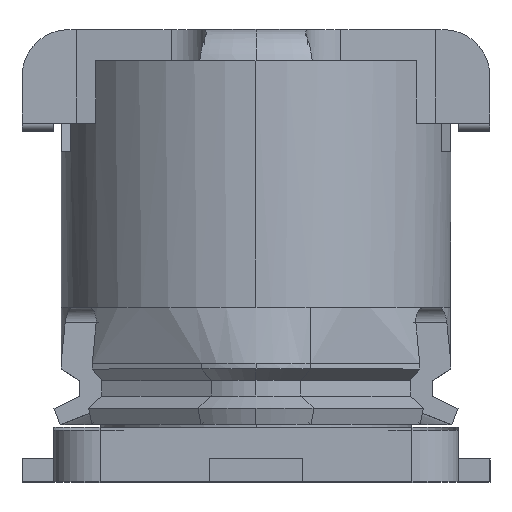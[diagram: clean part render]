
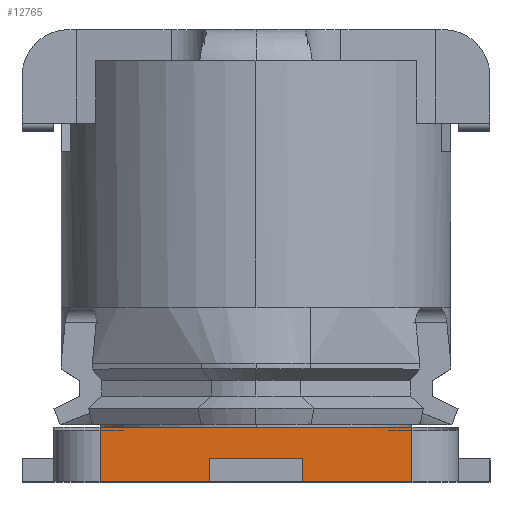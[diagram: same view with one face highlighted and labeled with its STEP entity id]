
A CAD part, top view. The second image highlights one B-rep face of the part: STEP entity #12765.
In plain terms, the highlighted planar face has unit normal (0, 0, 1).
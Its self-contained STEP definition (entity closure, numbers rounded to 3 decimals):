
#16 = ORIENTED_EDGE ( 'NONE', *, *, #10085, .F. ) ;
#99 = CARTESIAN_POINT ( 'NONE',  ( 0.3, 0., 1.3 ) ) ;
#495 = VECTOR ( 'NONE', #7496, 1000. ) ;
#560 = CARTESIAN_POINT ( 'NONE',  ( -0.3, 0., 1.3 ) ) ;
#622 = ORIENTED_EDGE ( 'NONE', *, *, #15265, .T. ) ;
#815 = EDGE_CURVE ( 'NONE', #11197, #2263, #8198, .T. ) ;
#821 = EDGE_CURVE ( 'NONE', #855, #1681, #4488, .T. ) ;
#855 = VERTEX_POINT ( 'NONE', #11535 ) ;
#892 = EDGE_CURVE ( 'NONE', #1994, #1877, #7316, .T. ) ;
#915 = LINE ( 'NONE', #10179, #4174 ) ;
#917 = DIRECTION ( 'NONE',  ( 0., -1., 0. ) ) ;
#1288 = DIRECTION ( 'NONE',  ( 0., 0., -1. ) ) ;
#1667 = EDGE_CURVE ( 'NONE', #17476, #16821, #13419, .T. ) ;
#1681 = VERTEX_POINT ( 'NONE', #560 ) ;
#1711 = VECTOR ( 'NONE', #11694, 1000. ) ;
#1857 = CARTESIAN_POINT ( 'NONE',  ( -1., 0.35, 1.3 ) ) ;
#1877 = VERTEX_POINT ( 'NONE', #12003 ) ;
#1905 = CARTESIAN_POINT ( 'NONE',  ( 1., 0.33, 1.3 ) ) ;
#1994 = VERTEX_POINT ( 'NONE', #2566 ) ;
#2263 = VERTEX_POINT ( 'NONE', #15710 ) ;
#2430 = DIRECTION ( 'NONE',  ( -1., 0., 0. ) ) ;
#2539 = DIRECTION ( 'NONE',  ( 0., -1., 0. ) ) ;
#2566 = CARTESIAN_POINT ( 'NONE',  ( 0.3, 0.15, 1.3 ) ) ;
#2812 = DIRECTION ( 'NONE',  ( 0., -1., 0. ) ) ;
#2887 = FACE_OUTER_BOUND ( 'NONE', #14350, .T. ) ;
#2947 = LINE ( 'NONE', #5107, #6197 ) ;
#3135 = DIRECTION ( 'NONE',  ( 1., 0., 0. ) ) ;
#4174 = VECTOR ( 'NONE', #17276, 1000. ) ;
#4184 = LINE ( 'NONE', #6105, #495 ) ;
#4195 = EDGE_CURVE ( 'NONE', #1681, #1877, #4184, .T. ) ;
#4488 = LINE ( 'NONE', #12515, #15168 ) ;
#4551 = CARTESIAN_POINT ( 'NONE',  ( 1., 0.35, 1.3 ) ) ;
#4876 = DIRECTION ( 'NONE',  ( 1., 0., 0. ) ) ;
#5107 = CARTESIAN_POINT ( 'NONE',  ( 0.3, 0.15, 1.3 ) ) ;
#5143 = VERTEX_POINT ( 'NONE', #99 ) ;
#5763 = EDGE_CURVE ( 'NONE', #1994, #5143, #2947, .T. ) ;
#5843 = LINE ( 'NONE', #14378, #1711 ) ;
#5883 = CARTESIAN_POINT ( 'NONE',  ( 1., 0., 1.3 ) ) ;
#5985 = ORIENTED_EDGE ( 'NONE', *, *, #12642, .T. ) ;
#5997 = VECTOR ( 'NONE', #2812, 1000. ) ;
#6063 = VECTOR ( 'NONE', #14305, 1000. ) ;
#6105 = CARTESIAN_POINT ( 'NONE',  ( -0.3, 0.15, 1.3 ) ) ;
#6197 = VECTOR ( 'NONE', #917, 1000. ) ;
#6525 = ORIENTED_EDGE ( 'NONE', *, *, #892, .F. ) ;
#6554 = AXIS2_PLACEMENT_3D ( 'NONE', #15172, #1288, #11037 ) ;
#6565 = ORIENTED_EDGE ( 'NONE', *, *, #821, .T. ) ;
#7316 = LINE ( 'NONE', #15310, #18032 ) ;
#7320 = CARTESIAN_POINT ( 'NONE',  ( -1., 0.35, 1.3 ) ) ;
#7496 = DIRECTION ( 'NONE',  ( 0., 1., 0. ) ) ;
#8198 = LINE ( 'NONE', #7320, #12336 ) ;
#8230 = PLANE ( 'NONE',  #6554 ) ;
#8931 = ORIENTED_EDGE ( 'NONE', *, *, #15099, .F. ) ;
#8960 = VERTEX_POINT ( 'NONE', #5883 ) ;
#10085 = EDGE_CURVE ( 'NONE', #11197, #17476, #5843, .T. ) ;
#10179 = CARTESIAN_POINT ( 'NONE',  ( -1., 0.35, 1.3 ) ) ;
#11037 = DIRECTION ( 'NONE',  ( -1., 0., 0. ) ) ;
#11197 = VERTEX_POINT ( 'NONE', #1857 ) ;
#11291 = VECTOR ( 'NONE', #4876, 1000. ) ;
#11535 = CARTESIAN_POINT ( 'NONE',  ( -1., 0., 1.3 ) ) ;
#11694 = DIRECTION ( 'NONE',  ( 1., 0., 0. ) ) ;
#12003 = CARTESIAN_POINT ( 'NONE',  ( -0.3, 0.15, 1.3 ) ) ;
#12336 = VECTOR ( 'NONE', #2539, 1000. ) ;
#12515 = CARTESIAN_POINT ( 'NONE',  ( 1., 0., 1.3 ) ) ;
#12642 = EDGE_CURVE ( 'NONE', #2263, #855, #915, .T. ) ;
#12765 = ADVANCED_FACE ( 'NONE', ( #2887 ), #8230, .F. ) ;
#12914 = ORIENTED_EDGE ( 'NONE', *, *, #815, .T. ) ;
#13419 = LINE ( 'NONE', #18118, #5997 ) ;
#14305 = DIRECTION ( 'NONE',  ( 0., -1., 0. ) ) ;
#14350 = EDGE_LOOP ( 'NONE', ( #17176, #6525, #16695, #622, #8931, #15518, #16, #12914, #5985, #6565 ) ) ;
#14378 = CARTESIAN_POINT ( 'NONE',  ( 1., 0.35, 1.3 ) ) ;
#14605 = CARTESIAN_POINT ( 'NONE',  ( 1., 0., 1.3 ) ) ;
#14994 = LINE ( 'NONE', #14605, #11291 ) ;
#15099 = EDGE_CURVE ( 'NONE', #16821, #8960, #17650, .T. ) ;
#15168 = VECTOR ( 'NONE', #3135, 1000. ) ;
#15172 = CARTESIAN_POINT ( 'NONE',  ( 1., 0.35, 1.3 ) ) ;
#15265 = EDGE_CURVE ( 'NONE', #5143, #8960, #14994, .T. ) ;
#15310 = CARTESIAN_POINT ( 'NONE',  ( 0., 0.15, 1.3 ) ) ;
#15518 = ORIENTED_EDGE ( 'NONE', *, *, #1667, .F. ) ;
#15710 = CARTESIAN_POINT ( 'NONE',  ( -1., 0.33, 1.3 ) ) ;
#16695 = ORIENTED_EDGE ( 'NONE', *, *, #5763, .T. ) ;
#16697 = CARTESIAN_POINT ( 'NONE',  ( 1., 0.35, 1.3 ) ) ;
#16821 = VERTEX_POINT ( 'NONE', #1905 ) ;
#17176 = ORIENTED_EDGE ( 'NONE', *, *, #4195, .T. ) ;
#17276 = DIRECTION ( 'NONE',  ( 0., -1., 0. ) ) ;
#17476 = VERTEX_POINT ( 'NONE', #16697 ) ;
#17650 = LINE ( 'NONE', #4551, #6063 ) ;
#18032 = VECTOR ( 'NONE', #2430, 1000. ) ;
#18118 = CARTESIAN_POINT ( 'NONE',  ( 1., 0.35, 1.3 ) ) ;
